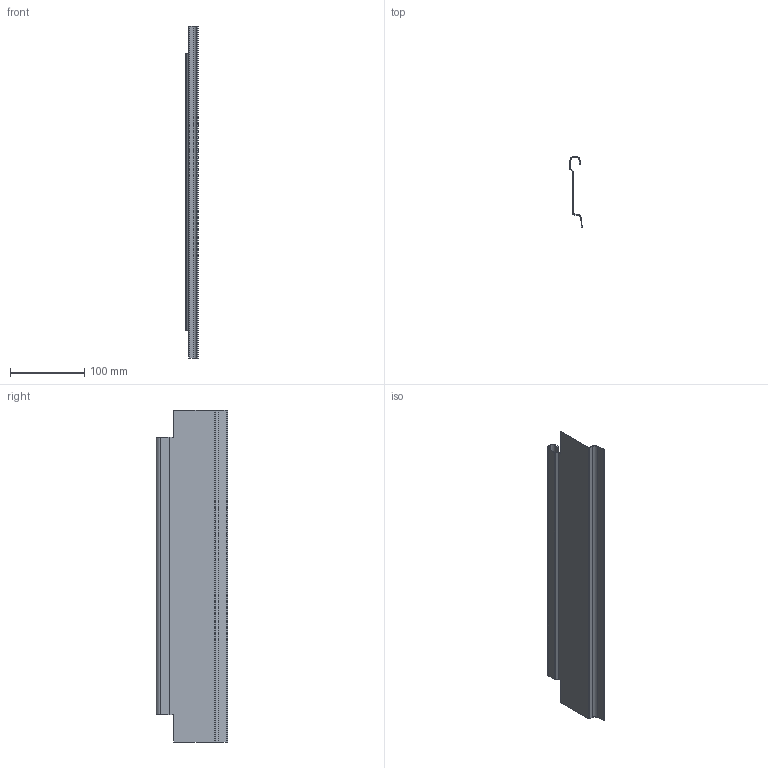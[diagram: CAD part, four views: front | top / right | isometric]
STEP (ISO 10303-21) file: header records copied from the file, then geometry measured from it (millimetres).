
FILE_DESCRIPTION (( 'STEP AP214' ), '1' );
FILE_NAME ('_Solowing NL480.step', '2010-07-14T13:31:56', ( 'grass' ), ( '' ), 'SwSTEP 2.0', 'SolidWorks 2010', '' );
FILE_SCHEMA (( 'AUTOMOTIVE_DESIGN' ));
Length unit declared in the file: millimetre
Products named in the file (1): _Solowing NL480
Bounding box: 16.3 x 96 x 448 mm (x, y, z)
Volume: 41830.1 mm3; surface area: 105490.2 mm2
Topology: 1 solids, 1 shells, 46 faces, 108 edges, 64 vertices
Faces by surface type: plane 36, cylinder 10
Entity records: 1314 total; most frequent: DIRECTION 222, CARTESIAN_POINT 219, ORIENTED_EDGE 216, EDGE_CURVE 108, LINE 88, VECTOR 88, AXIS2_PLACEMENT_3D 67, VERTEX_POINT 64
